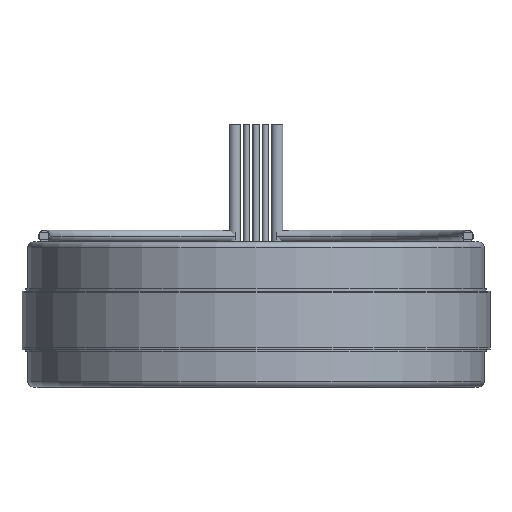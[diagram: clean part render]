
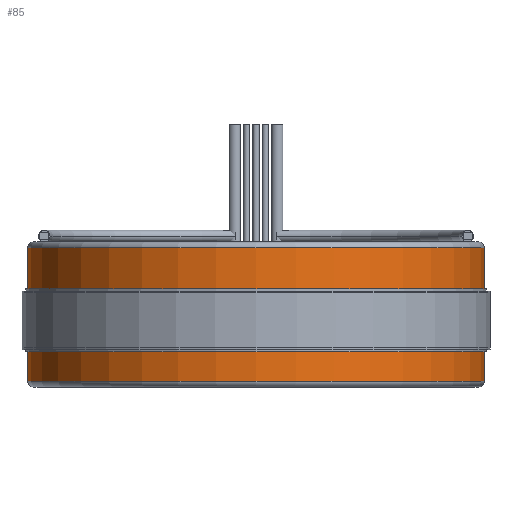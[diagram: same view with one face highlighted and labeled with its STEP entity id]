
A CAD part, front view. The second image highlights one B-rep face of the part: STEP entity #85.
In plain terms, the highlighted cylindrical face has radius 49.53 mm (diameter 99.06 mm), a partial arc.
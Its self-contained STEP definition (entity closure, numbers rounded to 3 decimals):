
#60 = CARTESIAN_POINT ( 'NONE',  ( 49.53, 0., -13.208 ) ) ;
#77 = ORIENTED_EDGE ( 'NONE', *, *, #184, .T. ) ;
#85 = ADVANCED_FACE ( 'NONE', ( #1337 ), #1847, .T. ) ;
#184 = EDGE_CURVE ( 'NONE', #2354, #1909, #1340, .T. ) ;
#334 = DIRECTION ( 'NONE',  ( 1., 0., 0. ) ) ;
#368 = AXIS2_PLACEMENT_3D ( 'NONE', #473, #456, #719 ) ;
#408 = CARTESIAN_POINT ( 'NONE',  ( -49.53, 0., -14.478 ) ) ;
#414 = VERTEX_POINT ( 'NONE', #2033 ) ;
#456 = DIRECTION ( 'NONE',  ( 0., 0., -1. ) ) ;
#457 = ORIENTED_EDGE ( 'NONE', *, *, #2783, .T. ) ;
#473 = CARTESIAN_POINT ( 'NONE',  ( 0., 0., 15.748 ) ) ;
#675 = EDGE_LOOP ( 'NONE', ( #2700, #457, #77, #2263 ) ) ;
#719 = DIRECTION ( 'NONE',  ( 1., 0., 0. ) ) ;
#842 = AXIS2_PLACEMENT_3D ( 'NONE', #1639, #3289, #334 ) ;
#1337 = FACE_OUTER_BOUND ( 'NONE', #675, .T. ) ;
#1340 = LINE ( 'NONE', #1691, #1466 ) ;
#1355 = DIRECTION ( 'NONE',  ( 0., 0., 1. ) ) ;
#1466 = VECTOR ( 'NONE', #3271, 1000. ) ;
#1484 = CIRCLE ( 'NONE', #842, 49.53 ) ;
#1580 = DIRECTION ( 'NONE',  ( 0., 0., 1. ) ) ;
#1588 = CIRCLE ( 'NONE', #368, 49.53 ) ;
#1639 = CARTESIAN_POINT ( 'NONE',  ( 0., 0., -13.208 ) ) ;
#1691 = CARTESIAN_POINT ( 'NONE',  ( 49.53, 0., -14.478 ) ) ;
#1722 = CARTESIAN_POINT ( 'NONE',  ( -49.53, 0., 15.748 ) ) ;
#1800 = LINE ( 'NONE', #408, #2091 ) ;
#1818 = EDGE_CURVE ( 'NONE', #1909, #2923, #1588, .T. ) ;
#1847 = CYLINDRICAL_SURFACE ( 'NONE', #1878, 49.53 ) ;
#1878 = AXIS2_PLACEMENT_3D ( 'NONE', #3223, #1355, #3233 ) ;
#1909 = VERTEX_POINT ( 'NONE', #3444 ) ;
#2033 = CARTESIAN_POINT ( 'NONE',  ( -49.53, 0., -13.208 ) ) ;
#2091 = VECTOR ( 'NONE', #1580, 1000. ) ;
#2191 = EDGE_CURVE ( 'NONE', #414, #2923, #1800, .T. ) ;
#2263 = ORIENTED_EDGE ( 'NONE', *, *, #1818, .T. ) ;
#2354 = VERTEX_POINT ( 'NONE', #60 ) ;
#2700 = ORIENTED_EDGE ( 'NONE', *, *, #2191, .F. ) ;
#2783 = EDGE_CURVE ( 'NONE', #414, #2354, #1484, .T. ) ;
#2923 = VERTEX_POINT ( 'NONE', #1722 ) ;
#3223 = CARTESIAN_POINT ( 'NONE',  ( 0., 0., -14.478 ) ) ;
#3233 = DIRECTION ( 'NONE',  ( 1., 0., 0. ) ) ;
#3271 = DIRECTION ( 'NONE',  ( 0., 0., 1. ) ) ;
#3289 = DIRECTION ( 'NONE',  ( 0., 0., 1. ) ) ;
#3444 = CARTESIAN_POINT ( 'NONE',  ( 49.53, 0., 15.748 ) ) ;
